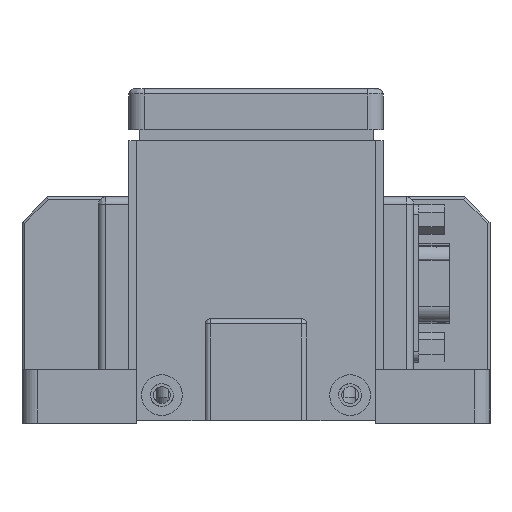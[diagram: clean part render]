
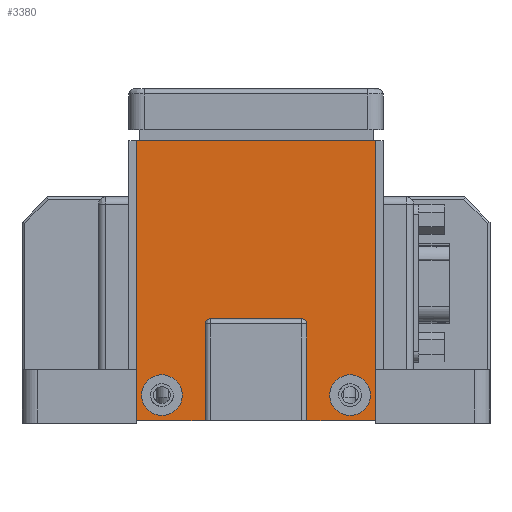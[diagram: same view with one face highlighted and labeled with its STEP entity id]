
A CAD part, left-side view. The second image highlights one B-rep face of the part: STEP entity #3380.
In plain terms, the highlighted planar face has unit normal (1, 0, 0).
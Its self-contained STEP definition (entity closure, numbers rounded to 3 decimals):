
#243 = DIRECTION ( 'NONE',  ( 0., 0., 1. ) ) ;
#749 = VERTEX_POINT ( 'NONE', #19742 ) ;
#1489 = CARTESIAN_POINT ( 'NONE',  ( -40.655, 84.699, 125.89 ) ) ;
#1647 = CARTESIAN_POINT ( 'NONE',  ( -40.655, 66.199, 152.39 ) ) ;
#1712 = ORIENTED_EDGE ( 'NONE', *, *, #20520, .F. ) ;
#1909 = EDGE_CURVE ( 'NONE', #749, #6769, #19365, .T. ) ;
#2031 = ORIENTED_EDGE ( 'NONE', *, *, #20152, .F. ) ;
#2074 = CARTESIAN_POINT ( 'NONE',  ( -40.655, 66.199, 144.89 ) ) ;
#2614 = ORIENTED_EDGE ( 'NONE', *, *, #17925, .F. ) ;
#2629 = DIRECTION ( 'NONE',  ( 0., 0., 1. ) ) ;
#2660 = VERTEX_POINT ( 'NONE', #1489 ) ;
#2666 = AXIS2_PLACEMENT_3D ( 'NONE', #1647, #7546, #21392 ) ;
#2754 = DIRECTION ( 'NONE',  ( 1., 0., 0. ) ) ;
#2835 = CARTESIAN_POINT ( 'NONE',  ( -40.655, 47.699, 129.89 ) ) ;
#3323 = AXIS2_PLACEMENT_3D ( 'NONE', #23969, #6254, #24138 ) ;
#3380 = ADVANCED_FACE ( 'NONE', ( #20216, #14937, #14642 ), #17493, .F. ) ;
#3401 = DIRECTION ( 'NONE',  ( 0., 0., -1. ) ) ;
#3687 = CARTESIAN_POINT ( 'NONE',  ( -40.655, 42.699, 124.89 ) ) ;
#3694 = DIRECTION ( 'NONE',  ( 0., -1., 0. ) ) ;
#3812 = VERTEX_POINT ( 'NONE', #5612 ) ;
#4275 = VERTEX_POINT ( 'NONE', #4740 ) ;
#4740 = CARTESIAN_POINT ( 'NONE',  ( -40.655, 47.699, 133.89 ) ) ;
#5062 = CARTESIAN_POINT ( 'NONE',  ( -40.655, 42.699, 124.89 ) ) ;
#5398 = ORIENTED_EDGE ( 'NONE', *, *, #14205, .F. ) ;
#5612 = CARTESIAN_POINT ( 'NONE',  ( -40.655, 75.199, 144.89 ) ) ;
#6254 = DIRECTION ( 'NONE',  ( 1., 0., 0. ) ) ;
#6642 = CARTESIAN_POINT ( 'NONE',  ( -40.655, 84.699, 133.89 ) ) ;
#6666 = EDGE_CURVE ( 'NONE', #12703, #22052, #19778, .T. ) ;
#6685 = CIRCLE ( 'NONE', #16563, 4. ) ;
#6769 = VERTEX_POINT ( 'NONE', #7744 ) ;
#7502 = CARTESIAN_POINT ( 'NONE',  ( -40.655, 42.699, 179.89 ) ) ;
#7546 = DIRECTION ( 'NONE',  ( -1., 0., 0. ) ) ;
#7744 = CARTESIAN_POINT ( 'NONE',  ( -40.655, 76.199, 143.89 ) ) ;
#7759 = ORIENTED_EDGE ( 'NONE', *, *, #16812, .F. ) ;
#7892 = CARTESIAN_POINT ( 'NONE',  ( -40.655, 47.699, 129.89 ) ) ;
#8030 = DIRECTION ( 'NONE',  ( 0., -1., 0. ) ) ;
#8259 = DIRECTION ( 'NONE',  ( 0., 0., -1. ) ) ;
#8684 = EDGE_CURVE ( 'NONE', #22880, #12703, #17011, .T. ) ;
#8685 = EDGE_CURVE ( 'NONE', #21798, #21851, #21628, .T. ) ;
#9094 = DIRECTION ( 'NONE',  ( 0., 0., -1. ) ) ;
#9257 = CARTESIAN_POINT ( 'NONE',  ( -40.655, 56.199, 144.89 ) ) ;
#9397 = CARTESIAN_POINT ( 'NONE',  ( -40.655, 56.199, 124.89 ) ) ;
#9458 = CIRCLE ( 'NONE', #10399, 4. ) ;
#9492 = AXIS2_PLACEMENT_3D ( 'NONE', #12391, #14461, #2629 ) ;
#10061 = EDGE_CURVE ( 'NONE', #18547, #2660, #22160, .T. ) ;
#10122 = VECTOR ( 'NONE', #8030, 1000. ) ;
#10154 = CARTESIAN_POINT ( 'NONE',  ( -40.655, 57.199, 143.89 ) ) ;
#10399 = AXIS2_PLACEMENT_3D ( 'NONE', #2835, #2754, #22764 ) ;
#10585 = AXIS2_PLACEMENT_3D ( 'NONE', #24865, #22717, #12901 ) ;
#10669 = CIRCLE ( 'NONE', #3323, 1. ) ;
#10850 = EDGE_CURVE ( 'NONE', #17798, #21798, #17516, .T. ) ;
#11138 = EDGE_CURVE ( 'NONE', #22052, #17798, #19051, .T. ) ;
#11209 = ORIENTED_EDGE ( 'NONE', *, *, #11138, .F. ) ;
#11228 = ORIENTED_EDGE ( 'NONE', *, *, #6666, .F. ) ;
#11368 = EDGE_CURVE ( 'NONE', #6769, #3812, #10669, .T. ) ;
#11526 = DIRECTION ( 'NONE',  ( 0., -1., 0. ) ) ;
#11993 = VECTOR ( 'NONE', #11526, 1000. ) ;
#12391 = CARTESIAN_POINT ( 'NONE',  ( -40.655, 84.699, 129.89 ) ) ;
#12486 = CARTESIAN_POINT ( 'NONE',  ( -40.655, 42.699, 179.89 ) ) ;
#12575 = ORIENTED_EDGE ( 'NONE', *, *, #12959, .F. ) ;
#12703 = VERTEX_POINT ( 'NONE', #9397 ) ;
#12816 = VECTOR ( 'NONE', #15791, 1000. ) ;
#12901 = DIRECTION ( 'NONE',  ( 0., 0., 1. ) ) ;
#12959 = EDGE_CURVE ( 'NONE', #16226, #22880, #24861, .T. ) ;
#13213 = LINE ( 'NONE', #3687, #11993 ) ;
#13416 = DIRECTION ( 'NONE',  ( 0., 0., 1. ) ) ;
#13434 = DIRECTION ( 'NONE',  ( 0., 0., 1. ) ) ;
#13641 = CARTESIAN_POINT ( 'NONE',  ( -40.655, 89.699, 179.89 ) ) ;
#14069 = VECTOR ( 'NONE', #13434, 1000. ) ;
#14108 = DIRECTION ( 'NONE',  ( 1., 0., 0. ) ) ;
#14205 = EDGE_CURVE ( 'NONE', #2660, #18547, #21072, .T. ) ;
#14461 = DIRECTION ( 'NONE',  ( 1., 0., 0. ) ) ;
#14642 = FACE_BOUND ( 'NONE', #19005, .T. ) ;
#14937 = FACE_BOUND ( 'NONE', #19240, .T. ) ;
#15147 = CARTESIAN_POINT ( 'NONE',  ( -40.655, 89.699, 124.89 ) ) ;
#15332 = ORIENTED_EDGE ( 'NONE', *, *, #8685, .F. ) ;
#15520 = CARTESIAN_POINT ( 'NONE',  ( -40.655, 42.699, 124.89 ) ) ;
#15791 = DIRECTION ( 'NONE',  ( 0., 1., 0. ) ) ;
#16226 = VERTEX_POINT ( 'NONE', #22879 ) ;
#16563 = AXIS2_PLACEMENT_3D ( 'NONE', #7892, #14108, #243 ) ;
#16642 = VERTEX_POINT ( 'NONE', #24336 ) ;
#16812 = EDGE_CURVE ( 'NONE', #3812, #16226, #23152, .T. ) ;
#17011 = LINE ( 'NONE', #9257, #20105 ) ;
#17105 = ORIENTED_EDGE ( 'NONE', *, *, #10061, .F. ) ;
#17493 = PLANE ( 'NONE',  #2666 ) ;
#17516 = LINE ( 'NONE', #7502, #12816 ) ;
#17798 = VERTEX_POINT ( 'NONE', #12486 ) ;
#17875 = DIRECTION ( 'NONE',  ( 1., 0., 0. ) ) ;
#17925 = EDGE_CURVE ( 'NONE', #21851, #749, #13213, .T. ) ;
#18547 = VERTEX_POINT ( 'NONE', #6642 ) ;
#19005 = EDGE_LOOP ( 'NONE', ( #17105, #5398 ) ) ;
#19051 = LINE ( 'NONE', #23304, #24601 ) ;
#19240 = EDGE_LOOP ( 'NONE', ( #2031, #1712 ) ) ;
#19353 = CARTESIAN_POINT ( 'NONE',  ( -40.655, 76.199, 144.89 ) ) ;
#19365 = LINE ( 'NONE', #19353, #14069 ) ;
#19742 = CARTESIAN_POINT ( 'NONE',  ( -40.655, 76.199, 124.89 ) ) ;
#19778 = LINE ( 'NONE', #15520, #25378 ) ;
#20105 = VECTOR ( 'NONE', #3401, 1000. ) ;
#20152 = EDGE_CURVE ( 'NONE', #4275, #16642, #6685, .T. ) ;
#20216 = FACE_OUTER_BOUND ( 'NONE', #21192, .T. ) ;
#20520 = EDGE_CURVE ( 'NONE', #16642, #4275, #9458, .T. ) ;
#20830 = ORIENTED_EDGE ( 'NONE', *, *, #10850, .F. ) ;
#21072 = CIRCLE ( 'NONE', #9492, 4. ) ;
#21192 = EDGE_LOOP ( 'NONE', ( #7759, #24030, #23093, #2614, #15332, #20830, #11209, #11228, #25440, #12575 ) ) ;
#21392 = DIRECTION ( 'NONE',  ( 0., 0., 1. ) ) ;
#21628 = LINE ( 'NONE', #15147, #24687 ) ;
#21798 = VERTEX_POINT ( 'NONE', #13641 ) ;
#21851 = VERTEX_POINT ( 'NONE', #23607 ) ;
#22052 = VERTEX_POINT ( 'NONE', #5062 ) ;
#22160 = CIRCLE ( 'NONE', #10585, 4. ) ;
#22697 = CARTESIAN_POINT ( 'NONE',  ( -40.655, 56.199, 143.89 ) ) ;
#22717 = DIRECTION ( 'NONE',  ( 1., 0., 0. ) ) ;
#22764 = DIRECTION ( 'NONE',  ( 0., 0., 1. ) ) ;
#22880 = VERTEX_POINT ( 'NONE', #22697 ) ;
#22879 = CARTESIAN_POINT ( 'NONE',  ( -40.655, 57.199, 144.89 ) ) ;
#23093 = ORIENTED_EDGE ( 'NONE', *, *, #1909, .F. ) ;
#23152 = LINE ( 'NONE', #2074, #10122 ) ;
#23304 = CARTESIAN_POINT ( 'NONE',  ( -40.655, 42.699, 124.89 ) ) ;
#23607 = CARTESIAN_POINT ( 'NONE',  ( -40.655, 89.699, 124.89 ) ) ;
#23969 = CARTESIAN_POINT ( 'NONE',  ( -40.655, 75.199, 143.89 ) ) ;
#24030 = ORIENTED_EDGE ( 'NONE', *, *, #11368, .F. ) ;
#24138 = DIRECTION ( 'NONE',  ( 0., 0., -1. ) ) ;
#24336 = CARTESIAN_POINT ( 'NONE',  ( -40.655, 47.699, 125.89 ) ) ;
#24601 = VECTOR ( 'NONE', #13416, 1000. ) ;
#24687 = VECTOR ( 'NONE', #9094, 1000. ) ;
#24861 = CIRCLE ( 'NONE', #25599, 1. ) ;
#24865 = CARTESIAN_POINT ( 'NONE',  ( -40.655, 84.699, 129.89 ) ) ;
#25378 = VECTOR ( 'NONE', #3694, 1000. ) ;
#25440 = ORIENTED_EDGE ( 'NONE', *, *, #8684, .F. ) ;
#25599 = AXIS2_PLACEMENT_3D ( 'NONE', #10154, #17875, #8259 ) ;
